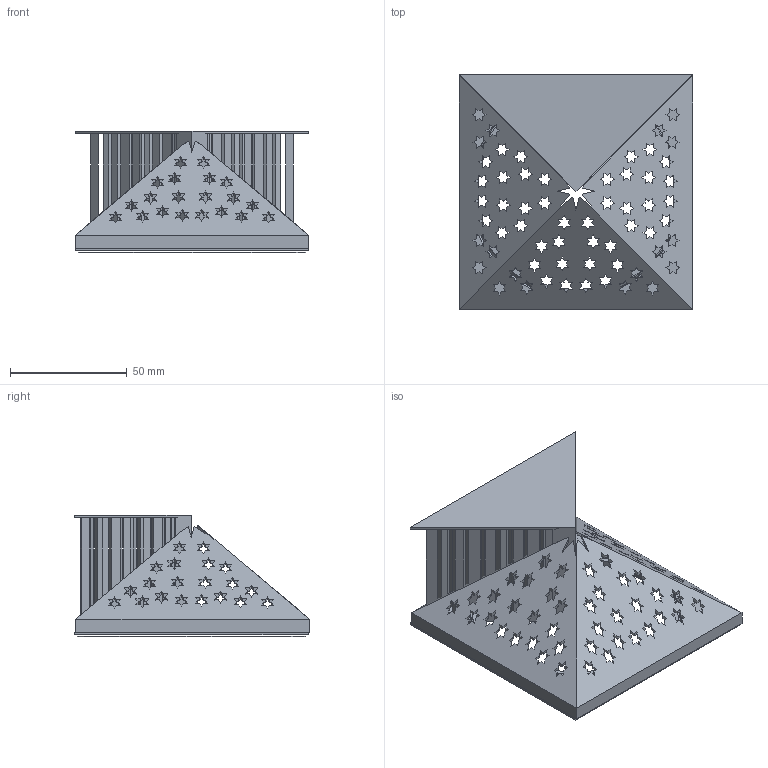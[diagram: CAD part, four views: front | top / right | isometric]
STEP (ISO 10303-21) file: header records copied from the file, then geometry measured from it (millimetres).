
FILE_DESCRIPTION(/* description */ ('STEP AP214','CAx-IF Rec.Pracs.---User Defined Attributes---1.5---2016-08-15'),/* implementation_level */ '2;1');
FILE_NAME(/* name */ '6ae31edbf048ba5c842f5cf1',/* time_stamp */ '2026-10-29T10:24:29Z',/* author */ (''),/* organization */ (''),/* preprocessor_version */ 'ST-DEVELOPER v20',/* originating_system */ 'ONSHAPE BY PTC INC, 1.222',/* authorisation */ ' ');
FILE_SCHEMA (('AUTOMOTIVE_DESIGN {1 0 10303 214 3 1 1}'));
Products named in the file (7): roof_top; roof_male_thread; cutout_honey; screw_fine_tuning_ring_so_that_it_aligns
Bounding box: 100 x 100.68 x 51.8 mm (x, y, z)
Volume: 78466.3 mm3; surface area: 99045.7 mm2
Topology: 7 solids, 7 shells, 1652 faces, 4716 edges, 3137 vertices
Faces by surface type: plane 1562, cylinder 34, bspline 31, cone 22, sphere 3
Full cylindrical faces by diameter (mm): 84 x1, 92.4 x1, 94 x1, 97.4 x1, 98 x1
Entity records: 57011 total; most frequent: CARTESIAN_POINT 13954, ORIENTED_EDGE 9416, DIRECTION 7829, EDGE_CURVE 4708, LINE 4339, VECTOR 4339, VERTEX_POINT 3136, EDGE_LOOP 1884
